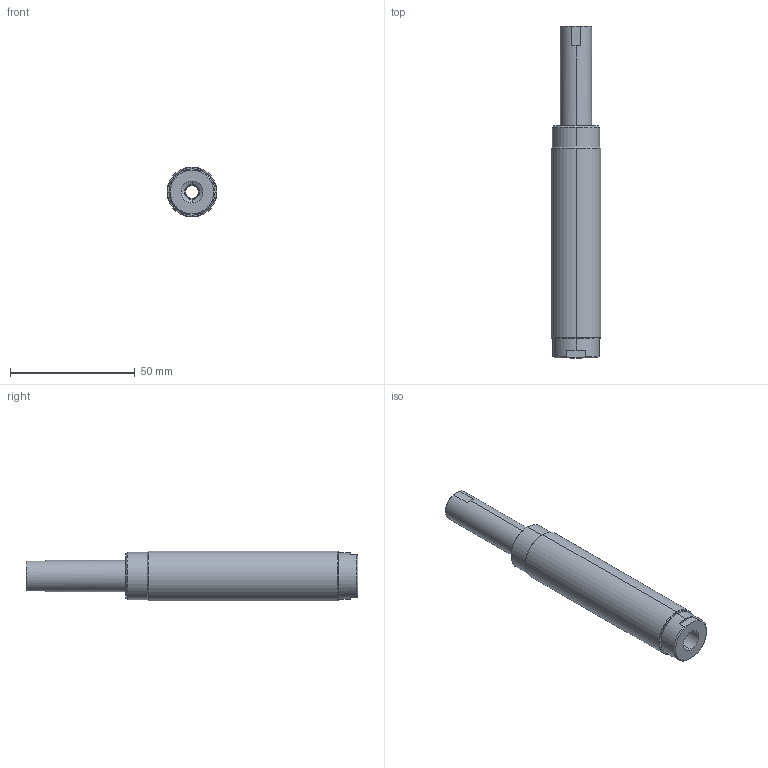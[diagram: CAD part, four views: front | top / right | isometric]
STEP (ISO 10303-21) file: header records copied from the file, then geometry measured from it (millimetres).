
FILE_DESCRIPTION (( 'STEP AP214' ), '1' );
FILE_NAME ('VFC2030-G18.STEP', '2019-12-19T05:56:09', ( '微软用户' ), ( '微软中国' ), 'SwSTEP 2.0', 'SolidWorks 2016', '' );
FILE_SCHEMA (( 'AUTOMOTIVE_DESIGN' ));
Length unit declared in the file: millimetre
Products named in the file (1): VFC2030-G18
Bounding box: 20 x 133 x 20 mm (x, y, z)
Volume: 21494.5 mm3; surface area: 21529.9 mm2
Topology: 4 solids, 4 shells, 133 faces, 288 edges, 170 vertices
Faces by surface type: cone 42, cylinder 40, plane 39, torus 12
Entity records: 5170 total; most frequent: DIRECTION 676, CARTESIAN_POINT 672, ORIENTED_EDGE 576, EDGE_CURVE 288, AXIS2_PLACEMENT_3D 278, VERTEX_POINT 170, EDGE_LOOP 148, CIRCLE 144
